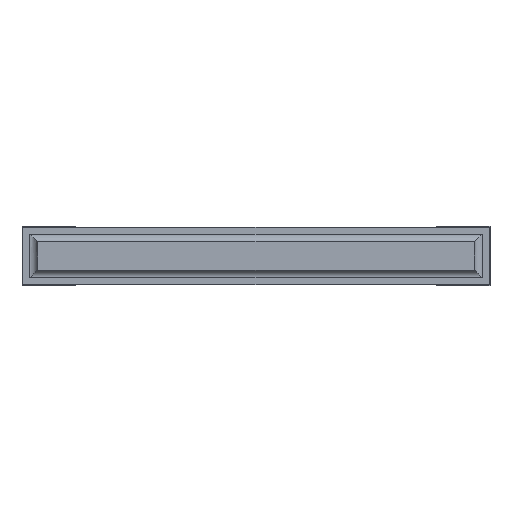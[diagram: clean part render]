
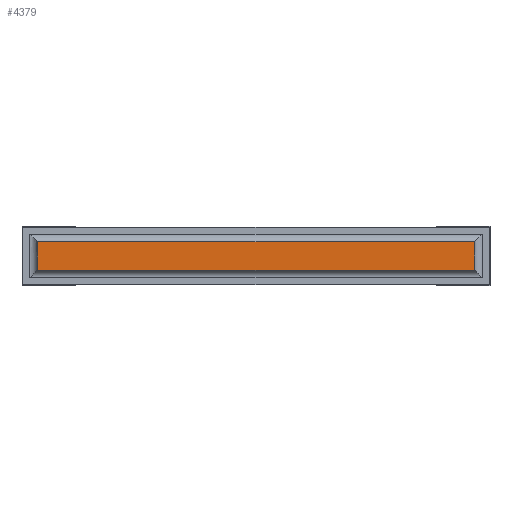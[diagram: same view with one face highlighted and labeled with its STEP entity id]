
A CAD part, front view. The second image highlights one B-rep face of the part: STEP entity #4379.
In plain terms, the highlighted planar face has unit normal (0, -1, 0).
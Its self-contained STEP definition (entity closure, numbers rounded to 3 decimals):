
#177=FACE_OUTER_BOUND('',#450,.T.);
#450=EDGE_LOOP('',(#2935,#2936,#2937,#2938));
#729=LINE('',#6243,#1301);
#735=LINE('',#6260,#1307);
#745=LINE('',#6282,#1317);
#746=LINE('',#6284,#1318);
#1301=VECTOR('',#5011,10.);
#1307=VECTOR('',#5029,10.);
#1317=VECTOR('',#5049,10.);
#1318=VECTOR('',#5052,10.);
#1873=VERTEX_POINT('',#6240);
#1874=VERTEX_POINT('',#6242);
#1879=VERTEX_POINT('',#6258);
#1886=VERTEX_POINT('',#6280);
#2273=EDGE_CURVE('',#1874,#1873,#729,.T.);
#2282=EDGE_CURVE('',#1879,#1873,#735,.T.);
#2293=EDGE_CURVE('',#1886,#1879,#745,.T.);
#2294=EDGE_CURVE('',#1874,#1886,#746,.T.);
#2935=ORIENTED_EDGE('',*,*,#2282,.F.);
#2936=ORIENTED_EDGE('',*,*,#2293,.F.);
#2937=ORIENTED_EDGE('',*,*,#2294,.F.);
#2938=ORIENTED_EDGE('',*,*,#2273,.T.);
#4159=PLANE('',#4689);
#4379=ADVANCED_FACE('',(#177),#4159,.T.);
#4689=AXIS2_PLACEMENT_3D('',#6283,#5050,#5051);
#5011=DIRECTION('',(0.,0.,-1.));
#5029=DIRECTION('',(-1.,0.,0.));
#5049=DIRECTION('',(0.,0.,-1.));
#5050=DIRECTION('center_axis',(0.,-1.,0.));
#5051=DIRECTION('ref_axis',(0.,0.,-1.));
#5052=DIRECTION('',(1.,0.,0.));
#6240=CARTESIAN_POINT('',(0.1,0.,0.1));
#6242=CARTESIAN_POINT('',(0.1,0.,0.28));
#6243=CARTESIAN_POINT('',(0.1,0.,0.28));
#6258=CARTESIAN_POINT('',(2.9,0.,0.1));
#6260=CARTESIAN_POINT('',(2.9,0.,0.1));
#6280=CARTESIAN_POINT('',(2.9,0.,0.28));
#6282=CARTESIAN_POINT('',(2.9,0.,0.28));
#6283=CARTESIAN_POINT('Origin',(2.9,0.,0.19));
#6284=CARTESIAN_POINT('',(0.1,0.,0.28));
